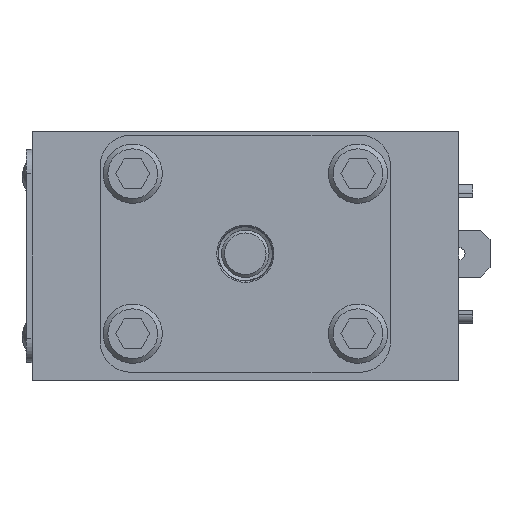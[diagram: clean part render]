
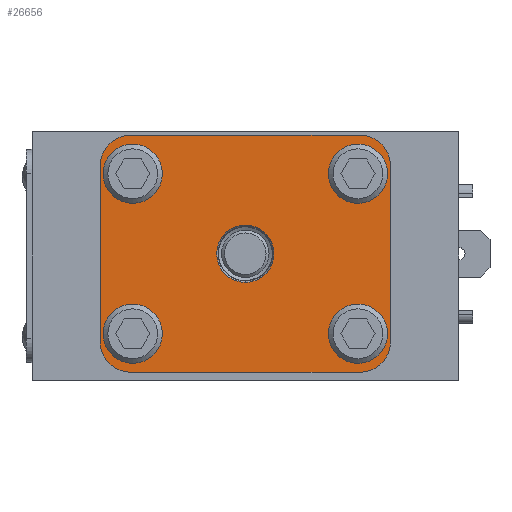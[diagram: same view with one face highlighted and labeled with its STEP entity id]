
A CAD part, left-side view. The second image highlights one B-rep face of the part: STEP entity #26656.
In plain terms, the highlighted planar face has unit normal (-1, 0, 0).
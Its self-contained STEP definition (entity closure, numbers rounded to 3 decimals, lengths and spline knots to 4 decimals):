
#485=FACE_BOUND('',#5432,.T.);
#486=FACE_BOUND('',#5433,.T.);
#487=FACE_BOUND('',#5434,.T.);
#488=FACE_BOUND('',#5435,.T.);
#489=FACE_BOUND('',#5436,.T.);
#1165=CIRCLE('',#27336,0.3969);
#1168=CIRCLE('',#27349,0.3969);
#1716=CIRCLE('',#28427,0.4064);
#1717=CIRCLE('',#28430,0.4064);
#1718=CIRCLE('',#28433,0.4064);
#1719=CIRCLE('',#28436,0.4064);
#1767=CIRCLE('',#28558,0.3969);
#1770=CIRCLE('',#28571,0.3969);
#2159=CIRCLE('',#29382,0.3835);
#3770=FACE_OUTER_BOUND('',#5431,.T.);
#5431=EDGE_LOOP('',(#22462,#22463,#22464,#22465,#22466,#22467,#22468,#22469));
#5432=EDGE_LOOP('',(#22470));
#5433=EDGE_LOOP('',(#22471));
#5434=EDGE_LOOP('',(#22472));
#5435=EDGE_LOOP('',(#22473));
#5436=EDGE_LOOP('',(#22474));
#6813=LINE('',#42716,#8641);
#6816=LINE('',#42724,#8644);
#6819=LINE('',#42732,#8647);
#6822=LINE('',#42740,#8650);
#8641=VECTOR('',#34011,1.);
#8644=VECTOR('',#34020,1.);
#8647=VECTOR('',#34029,1.);
#8650=VECTOR('',#34038,1.);
#10250=VERTEX_POINT('',#38985);
#10265=VERTEX_POINT('',#39033);
#11142=VERTEX_POINT('',#42712);
#11143=VERTEX_POINT('',#42714);
#11144=VERTEX_POINT('',#42718);
#11145=VERTEX_POINT('',#42722);
#11146=VERTEX_POINT('',#42726);
#11147=VERTEX_POINT('',#42730);
#11148=VERTEX_POINT('',#42734);
#11149=VERTEX_POINT('',#42738);
#11251=VERTEX_POINT('',#43085);
#11266=VERTEX_POINT('',#43133);
#11872=VERTEX_POINT('',#47419);
#12860=EDGE_CURVE('',#10250,#10250,#1165,.T.);
#12883=EDGE_CURVE('',#10265,#10265,#1168,.T.);
#14238=EDGE_CURVE('',#11143,#11142,#6813,.T.);
#14240=EDGE_CURVE('',#11144,#11143,#1716,.T.);
#14242=EDGE_CURVE('',#11145,#11144,#6816,.T.);
#14244=EDGE_CURVE('',#11146,#11145,#1717,.T.);
#14246=EDGE_CURVE('',#11147,#11146,#6819,.T.);
#14248=EDGE_CURVE('',#11148,#11147,#1718,.T.);
#14250=EDGE_CURVE('',#11149,#11148,#6822,.T.);
#14251=EDGE_CURVE('',#11142,#11149,#1719,.T.);
#14420=EDGE_CURVE('',#11251,#11251,#1767,.T.);
#14443=EDGE_CURVE('',#11266,#11266,#1770,.T.);
#15429=EDGE_CURVE('',#11872,#11872,#2159,.T.);
#22462=ORIENTED_EDGE('',*,*,#14251,.F.);
#22463=ORIENTED_EDGE('',*,*,#14238,.F.);
#22464=ORIENTED_EDGE('',*,*,#14240,.F.);
#22465=ORIENTED_EDGE('',*,*,#14242,.F.);
#22466=ORIENTED_EDGE('',*,*,#14244,.F.);
#22467=ORIENTED_EDGE('',*,*,#14246,.F.);
#22468=ORIENTED_EDGE('',*,*,#14248,.F.);
#22469=ORIENTED_EDGE('',*,*,#14250,.F.);
#22470=ORIENTED_EDGE('',*,*,#14443,.T.);
#22471=ORIENTED_EDGE('',*,*,#14420,.T.);
#22472=ORIENTED_EDGE('',*,*,#12883,.T.);
#22473=ORIENTED_EDGE('',*,*,#12860,.T.);
#22474=ORIENTED_EDGE('',*,*,#15429,.T.);
#23773=PLANE('',#29408);
#26656=ADVANCED_FACE('',(#3770,#485,#486,#487,#488,#489),#23773,.T.);
#27336=AXIS2_PLACEMENT_3D('',#38987,#31080,#31081);
#27349=AXIS2_PLACEMENT_3D('',#39035,#31126,#31127);
#28427=AXIS2_PLACEMENT_3D('',#42720,#34015,#34016);
#28430=AXIS2_PLACEMENT_3D('',#42728,#34024,#34025);
#28433=AXIS2_PLACEMENT_3D('',#42736,#34033,#34034);
#28436=AXIS2_PLACEMENT_3D('',#42742,#34041,#34042);
#28558=AXIS2_PLACEMENT_3D('',#43087,#34406,#34407);
#28571=AXIS2_PLACEMENT_3D('',#43135,#34452,#34453);
#29382=AXIS2_PLACEMENT_3D('',#47421,#36455,#36456);
#29408=AXIS2_PLACEMENT_3D('',#47479,#36523,#36524);
#31080=DIRECTION('center_axis',(1.,0.,0.));
#31081=DIRECTION('ref_axis',(0.,0.,
-1.));
#31126=DIRECTION('center_axis',(1.,0.,0.));
#31127=DIRECTION('ref_axis',(0.,0.,
-1.));
#34011=DIRECTION('',(0.,1.,0.));
#34015=DIRECTION('center_axis',(1.,0.,0.));
#34016=DIRECTION('ref_axis',(0.,-0.707,-0.707));
#34020=DIRECTION('',(0.,0.,-1.));
#34024=DIRECTION('center_axis',(1.,0.,0.));
#34025=DIRECTION('ref_axis',(0.,-0.707,0.707));
#34029=DIRECTION('',(0.,-1.,0.));
#34033=DIRECTION('center_axis',(1.,0.,0.));
#34034=DIRECTION('ref_axis',(0.,0.707,0.707));
#34038=DIRECTION('',(0.,0.,1.));
#34041=DIRECTION('center_axis',(1.,0.,0.));
#34042=DIRECTION('ref_axis',(0.,0.707,-0.707));
#34406=DIRECTION('center_axis',(1.,0.,0.));
#34407=DIRECTION('ref_axis',(0.,0.,
-1.));
#34452=DIRECTION('center_axis',(1.,0.,0.));
#34453=DIRECTION('ref_axis',(0.,0.,
-1.));
#36455=DIRECTION('center_axis',(1.,0.,0.));
#36456=DIRECTION('ref_axis',(0.,-1.,0.));
#36523=DIRECTION('center_axis',(-1.,0.,0.));
#36524=DIRECTION('ref_axis',(0.,-1.,0.));
#38985=CARTESIAN_POINT('',(-5.7252,-1.5088,-0.6445));
#38987=CARTESIAN_POINT('Origin',(-5.7252,-1.5088,-1.0414));
#39033=CARTESIAN_POINT('',(-5.7252,1.5088,-0.6445));
#39035=CARTESIAN_POINT('Origin',(-5.7252,1.5088,-1.0414));
#42712=CARTESIAN_POINT('',(-5.7252,1.538,-1.557));
#42714=CARTESIAN_POINT('',(-5.7252,-1.538,-1.557));
#42716=CARTESIAN_POINT('',(-5.7252,-1.9444,-1.557));
#42718=CARTESIAN_POINT('',(-5.7252,-1.9444,-1.1506));
#42720=CARTESIAN_POINT('Origin',(-5.7252,-1.538,-1.1506));
#42722=CARTESIAN_POINT('',(-5.7252,-1.9444,1.2116));
#42724=CARTESIAN_POINT('',(-5.7252,-1.9444,1.618));
#42726=CARTESIAN_POINT('',(-5.7252,-1.538,1.618));
#42728=CARTESIAN_POINT('Origin',(-5.7252,-1.538,1.2116));
#42730=CARTESIAN_POINT('',(-5.7252,1.538,1.618));
#42732=CARTESIAN_POINT('',(-5.7252,1.9444,1.618));
#42734=CARTESIAN_POINT('',(-5.7252,1.9444,1.2116));
#42736=CARTESIAN_POINT('Origin',(-5.7252,1.538,1.2116));
#42738=CARTESIAN_POINT('',(-5.7252,1.9444,-1.1506));
#42740=CARTESIAN_POINT('',(-5.7252,1.9444,-1.557));
#42742=CARTESIAN_POINT('Origin',(-5.7252,1.538,-1.1506));
#43085=CARTESIAN_POINT('',(-5.7252,1.5088,1.4992));
#43087=CARTESIAN_POINT('Origin',(-5.7252,1.5088,1.1024));
#43133=CARTESIAN_POINT('',(-5.7252,-1.5088,1.4992));
#43135=CARTESIAN_POINT('Origin',(-5.7252,-1.5088,1.1024));
#47419=CARTESIAN_POINT('',(-5.7252,0.3835,0.0305));
#47421=CARTESIAN_POINT('Origin',(-5.7252,0.,0.0305));
#47479=CARTESIAN_POINT('Origin',(-5.7252,0.,0.0305));
